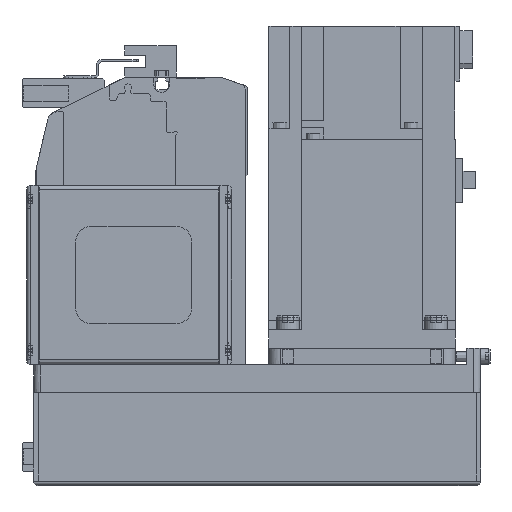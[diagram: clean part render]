
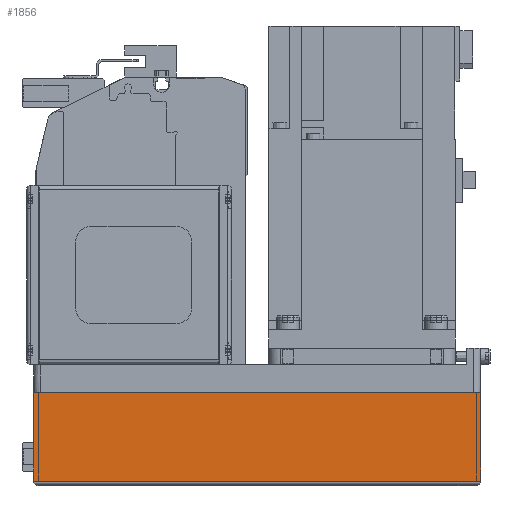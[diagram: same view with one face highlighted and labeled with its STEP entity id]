
A CAD part, left-side view. The second image highlights one B-rep face of the part: STEP entity #1856.
In plain terms, the highlighted planar face has unit normal (-1, 0, 0) as drawn and (0, 1, 0) by its records, which use the part's own axes.
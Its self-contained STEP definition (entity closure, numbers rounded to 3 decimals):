
#1856 = ADVANCED_FACE( '', ( #4586 ), #4587, .T. );
#4586 = FACE_OUTER_BOUND( '', #8514, .T. );
#4587 = PLANE( '', #8515 );
#8514 = EDGE_LOOP( '', ( #13886, #13887, #13888, #13889 ) );
#8515 = AXIS2_PLACEMENT_3D( '', #13890, #13891, #13892 );
#13886 = ORIENTED_EDGE( '', *, *, #23169, .F. );
#13887 = ORIENTED_EDGE( '', *, *, #23170, .F. );
#13888 = ORIENTED_EDGE( '', *, *, #23171, .T. );
#13889 = ORIENTED_EDGE( '', *, *, #23172, .T. );
#13890 = CARTESIAN_POINT( '', ( -192., 40., -50. ) );
#13891 = DIRECTION( '', ( 0., 1., 0. ) );
#13892 = DIRECTION( '', ( 0., 0., 1. ) );
#23169 = EDGE_CURVE( '', #28104, #28105, #28106, .T. );
#23170 = EDGE_CURVE( '', #28107, #28104, #28108, .T. );
#23171 = EDGE_CURVE( '', #28107, #28109, #28110, .T. );
#23172 = EDGE_CURVE( '', #28109, #28105, #28111, .T. );
#28104 = VERTEX_POINT( '', #35509 );
#28105 = VERTEX_POINT( '', #35510 );
#28106 = LINE( '', #35511, #35512 );
#28107 = VERTEX_POINT( '', #35513 );
#28108 = LINE( '', #35514, #35515 );
#28109 = VERTEX_POINT( '', #35516 );
#28110 = LINE( '', #35517, #35518 );
#28111 = LINE( '', #35519, #35520 );
#35509 = CARTESIAN_POINT( '', ( 0., 40., -50. ) );
#35510 = CARTESIAN_POINT( '', ( 0., 40., -12.1 ) );
#35511 = CARTESIAN_POINT( '', ( 0., 40., -50. ) );
#35512 = VECTOR( '', #42806, 1000. );
#35513 = CARTESIAN_POINT( '', ( -192., 40., -50. ) );
#35514 = CARTESIAN_POINT( '', ( -192., 40., -50. ) );
#35515 = VECTOR( '', #42807, 1000. );
#35516 = CARTESIAN_POINT( '', ( -192., 40., -12.1 ) );
#35517 = CARTESIAN_POINT( '', ( -192., 40., -50. ) );
#35518 = VECTOR( '', #42808, 1000. );
#35519 = CARTESIAN_POINT( '', ( -192., 40., -12.1 ) );
#35520 = VECTOR( '', #42809, 1000. );
#42806 = DIRECTION( '', ( 0., 0., 1. ) );
#42807 = DIRECTION( '', ( 1., 0., 0. ) );
#42808 = DIRECTION( '', ( 0., 0., 1. ) );
#42809 = DIRECTION( '', ( 1., 0., 0. ) );
